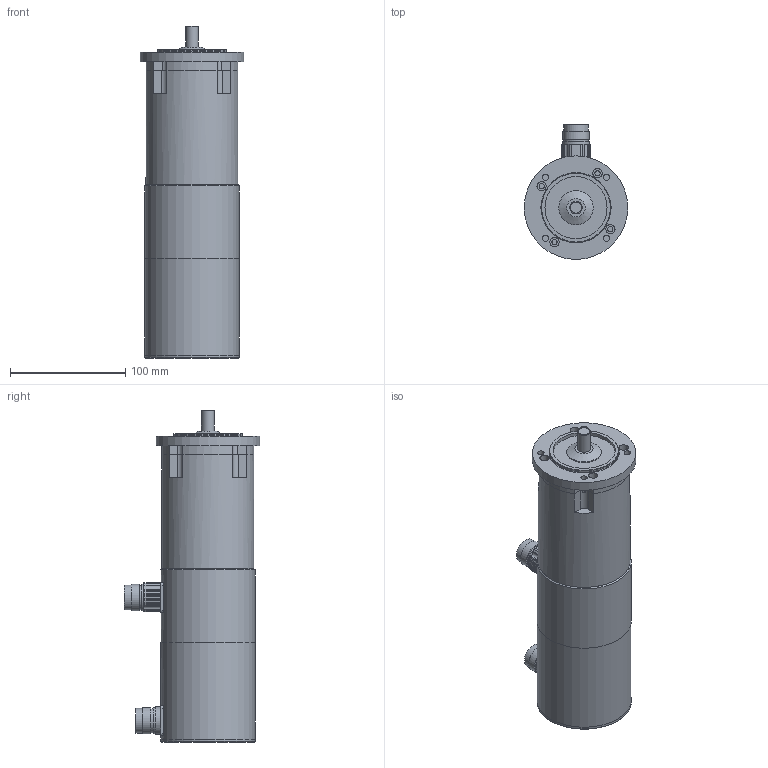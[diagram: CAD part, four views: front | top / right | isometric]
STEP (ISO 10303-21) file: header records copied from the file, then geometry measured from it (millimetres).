
FILE_DESCRIPTION(/* description */ (''),/* implementation_level */ '2;1');
FILE_NAME(/* name */ 'ksy_268e_md_rx',/* time_stamp */ '2007-03-16T13:51:06+01:00',/* author */ (''),/* organization */ (''),/* preprocessor_version */ 'ST-DEVELOPER v8',/* originating_system */ 'UNIGRAPHICS SOLUTIONS - UNIGRAPHICS 18.0',/* authorisation */ '');
FILE_SCHEMA (('AUTOMOTIVE_DESIGN { 1 2 10303 214 0 1 1 1 }'));
Length unit declared in the file: millimetre
Products named in the file (11): 014261_0; 014260_0; 064260_0; 064313_0; 112089_0; 06330301_0; DIN3760_org_A12x24x7_0; Rotor_SY 26.. E_0; Gehaeuse_SY26.. E_0; 112072_0; KSY264_E-MD-RC_0
Assembly tree (10 placements, depth 2):
  KSY264_E-MD-RC_0
    112072_0
    Gehaeuse_SY26.. E_0
    Rotor_SY 26.. E_0
    DIN3760_org_A12x24x7_0
    06330301_0
    112089_0
    064313_0
    064260_0
    014260_0
    014261_0
Bounding box: 90 x 117.5 x 288.5 mm (x, y, z)
Volume: 1144080.3 mm3; surface area: 161851.1 mm2
Topology: 10 solids, 10 shells, 297 faces, 741 edges, 477 vertices
Faces by surface type: cylinder 159, plane 94, sphere 20, cone 17, torus 7
Full cylindrical faces by diameter (mm): 1 x16, 2 x4, 2.7 x8, 3.5 x4, 4.5 x4, 5.5 x4, 8 x4, 10.52 x1, 10.94 x1, 11 x1, 12 x2, 12.3 x1, 18 x2, 20 x4, 21 x3, 21.5 x2, 23 x4, 24 x3, 30 x1, 32 x1, 54 x1, 60 x2, 63.3 x1, 64 x1, 64.3 x1, 65 x2, 66 x2, 80 x1, 82 x3, 90 x1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
Entity records: 8041 total; most frequent: DIRECTION 1502, CARTESIAN_POINT 1249, ORIENTED_EDGE 1052, AXIS2_PLACEMENT_3D 668, EDGE_CURVE 526, EDGE_LOOP 506, VERTEX_POINT 415, CIRCLE 360
